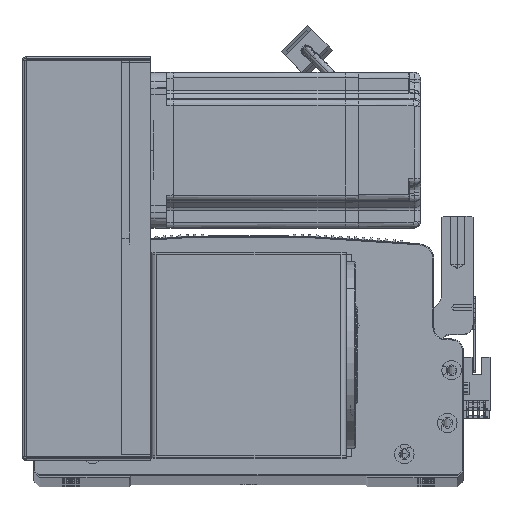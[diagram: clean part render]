
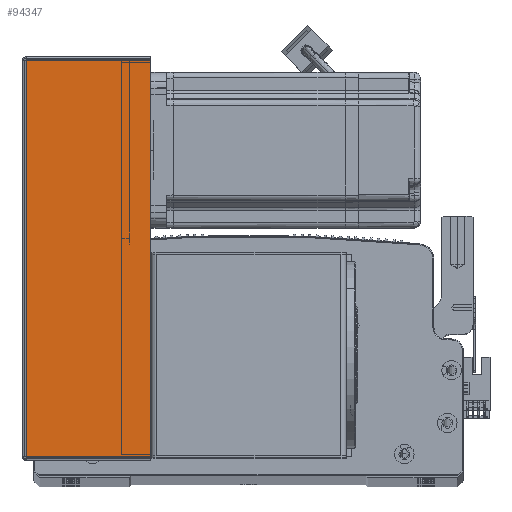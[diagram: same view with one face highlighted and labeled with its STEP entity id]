
A CAD part, top view. The second image highlights one B-rep face of the part: STEP entity #94347.
In plain terms, the highlighted planar face has unit normal (0, 0, 1) as drawn and (0, 1, 0) by its records, which use the part's own axes.
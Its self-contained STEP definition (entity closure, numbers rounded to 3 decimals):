
#5776 = EDGE_CURVE ( 'NONE', #84570, #11287, #58201, .T. ) ;
#5777 = DIRECTION ( 'NONE',  ( 0., -1., 0. ) ) ;
#6116 = CARTESIAN_POINT ( 'NONE',  ( 0., 107.5, 0. ) ) ;
#7776 = CARTESIAN_POINT ( 'NONE',  ( 0.737, 107.5, 0. ) ) ;
#8636 = LINE ( 'NONE', #14035, #26112 ) ;
#10522 = VECTOR ( 'NONE', #42571, 1000. ) ;
#11287 = VERTEX_POINT ( 'NONE', #77441 ) ;
#12601 = PLANE ( 'NONE',  #42433 ) ;
#14035 = CARTESIAN_POINT ( 'NONE',  ( 0., 107.5, -0.707 ) ) ;
#16729 = EDGE_CURVE ( 'NONE', #84570, #89587, #8636, .T. ) ;
#18117 = EDGE_CURVE ( 'NONE', #89587, #74192, #31037, .T. ) ;
#19408 = DIRECTION ( 'NONE',  ( 0., 0., -1. ) ) ;
#21362 = FACE_OUTER_BOUND ( 'NONE', #24544, .T. ) ;
#24544 = EDGE_LOOP ( 'NONE', ( #69752, #81413, #61345, #75677 ) ) ;
#25227 = CARTESIAN_POINT ( 'NONE',  ( 0., 107.5, -203.293 ) ) ;
#26112 = VECTOR ( 'NONE', #81563, 1000. ) ;
#26224 = CARTESIAN_POINT ( 'NONE',  ( 0.737, 107.5, -0.707 ) ) ;
#31037 = LINE ( 'NONE', #93788, #43929 ) ;
#40710 = CARTESIAN_POINT ( 'NONE',  ( 64.5, 107.5, -203.293 ) ) ;
#42433 = AXIS2_PLACEMENT_3D ( 'NONE', #6116, #5777, #57711 ) ;
#42571 = DIRECTION ( 'NONE',  ( 1., 0., 0. ) ) ;
#43929 = VECTOR ( 'NONE', #19408, 1000. ) ;
#57711 = DIRECTION ( 'NONE',  ( 1., 0., 0. ) ) ;
#58201 = LINE ( 'NONE', #7776, #91970 ) ;
#59680 = LINE ( 'NONE', #25227, #10522 ) ;
#59723 = DIRECTION ( 'NONE',  ( 0., 0., -1. ) ) ;
#61345 = ORIENTED_EDGE ( 'NONE', *, *, #18117, .T. ) ;
#67343 = CARTESIAN_POINT ( 'NONE',  ( 64.5, 107.5, -0.707 ) ) ;
#69752 = ORIENTED_EDGE ( 'NONE', *, *, #5776, .F. ) ;
#74192 = VERTEX_POINT ( 'NONE', #40710 ) ;
#75677 = ORIENTED_EDGE ( 'NONE', *, *, #90711, .F. ) ;
#77441 = CARTESIAN_POINT ( 'NONE',  ( 0.737, 107.5, -203.293 ) ) ;
#81413 = ORIENTED_EDGE ( 'NONE', *, *, #16729, .T. ) ;
#81563 = DIRECTION ( 'NONE',  ( 1., 0., 0. ) ) ;
#84570 = VERTEX_POINT ( 'NONE', #26224 ) ;
#89587 = VERTEX_POINT ( 'NONE', #67343 ) ;
#90711 = EDGE_CURVE ( 'NONE', #11287, #74192, #59680, .T. ) ;
#91970 = VECTOR ( 'NONE', #59723, 1000. ) ;
#93788 = CARTESIAN_POINT ( 'NONE',  ( 64.5, 107.5, -204. ) ) ;
#94347 = ADVANCED_FACE ( 'NONE', ( #21362 ), #12601, .F. ) ;
